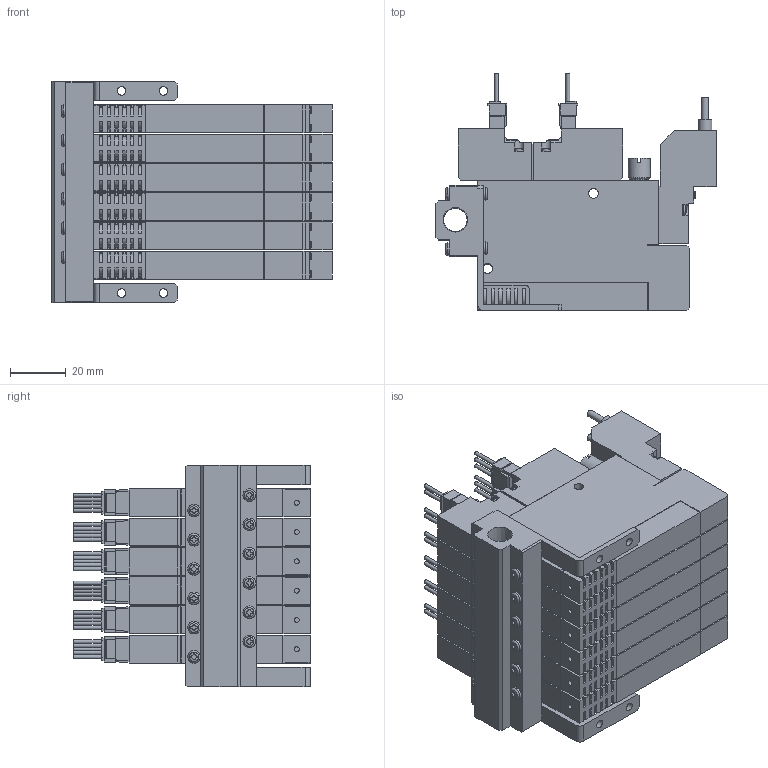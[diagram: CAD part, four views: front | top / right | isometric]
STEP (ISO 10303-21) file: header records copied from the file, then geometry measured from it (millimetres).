
FILE_DESCRIPTION(('STEP AP203'),'1');
FILE_NAME('5WS606_3D.stp','2024-09-04T23:10:30',(' '),(' '),'Spatial InterOp 3D',' ',' ');
FILE_SCHEMA(('CONFIG_CONTROL_DESIGN'));
Length unit declared in the file: millimetre
Products named in the file (5): BSC1M※※V8※5WS606; Solenoid valve W; Pressure Sensor V8; Unit-S; BaseMS60R
Assembly tree (19 placements, depth 2):
  BSC1M※※V8※5WS606
    Solenoid valve W  x6
    Pressure Sensor V8  x6
    Unit-S  x6
    BaseMS60R
Bounding box: 100.5 x 85.05 x 79.5 mm (x, y, z)
Volume: 303850.7 mm3; surface area: 124476.9 mm2
Topology: 19 solids, 19 shells, 2963 faces, 8085 edges, 5362 vertices
Faces by surface type: plane 2194, cylinder 657, cone 44, torus 40, sphere 28
Full cylindrical faces by diameter (mm): 1.4 x30, 1.8 x6, 2.5 x30, 3 x28, 3.5 x36, 4 x6, 4.134 x12, 4.5 x16, 5 x6, 5.5 x6, 7 x6, 7.7 x6, 8 x6, 8.422 x1
Entity records: 23179 total; most frequent: CARTESIAN_POINT 5203, DIRECTION 3583, ORIENTED_EDGE 3560, EDGE_CURVE 1780, VERTEX_POINT 1239, LINE 1221, VECTOR 1221, AXIS2_PLACEMENT_3D 1181
